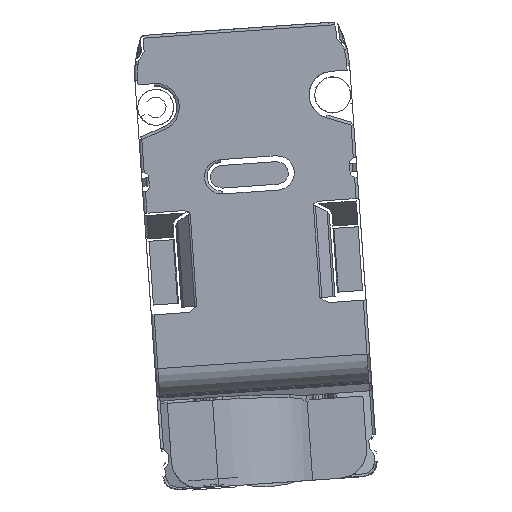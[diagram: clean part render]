
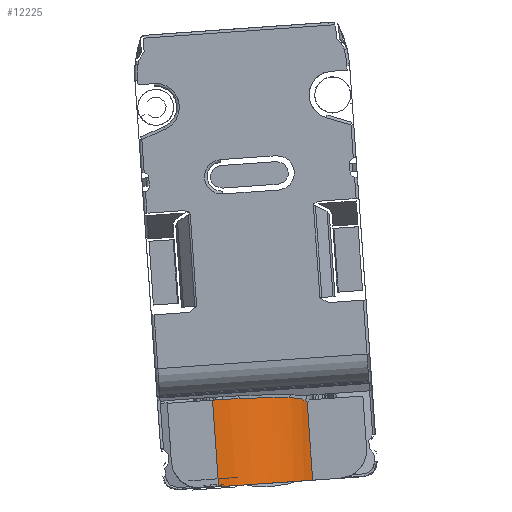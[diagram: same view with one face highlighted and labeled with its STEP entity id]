
A CAD part, front view. The second image highlights one B-rep face of the part: STEP entity #12225.
In plain terms, the highlighted cylindrical face has radius 7.5 mm (diameter 15 mm), a partial arc.
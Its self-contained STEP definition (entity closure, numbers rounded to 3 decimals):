
#11054=DIRECTION('',(-0.07,0.,0.998));
#11055=VECTOR('',#11054,5.56);
#11056=CARTESIAN_POINT('',(-40.701,-1070.597,
14.888));
#11057=LINE('',#11056,#11055);
#11061=DIRECTION('',(0.07,0.,-0.998));
#11062=VECTOR('',#11061,6.214);
#11063=CARTESIAN_POINT('',(-47.863,-1074.818,
20.616));
#11064=LINE('',#11063,#11062);
#11068=CARTESIAN_POINT('',(-47.863,-1074.818,
20.616));
#11069=CARTESIAN_POINT('',(-47.616,-1074.818,
20.634));
#11070=CARTESIAN_POINT('',(-47.119,-1074.794,
20.666));
#11071=CARTESIAN_POINT('',(-46.371,-1074.681,
20.708));
#11072=CARTESIAN_POINT('',(-45.632,-1074.491,
20.743));
#11073=CARTESIAN_POINT('',(-44.911,-1074.225,
20.769));
#11074=CARTESIAN_POINT('',(-44.218,-1073.886,
20.787));
#11075=CARTESIAN_POINT('',(-43.563,-1073.478,
20.796));
#11076=CARTESIAN_POINT('',(-42.955,-1073.006,
20.796));
#11077=CARTESIAN_POINT('',(-42.4,-1072.477,
20.788));
#11078=CARTESIAN_POINT('',(-41.906,-1071.9,
20.77));
#11079=CARTESIAN_POINT('',(-41.619,-1071.489,
20.753));
#11080=CARTESIAN_POINT('',(-41.487,-1071.278,
20.743));
#11085=CARTESIAN_POINT('',(-41.487,-1071.278,
20.743));
#11086=CARTESIAN_POINT('',(-41.453,-1071.225,
20.741));
#11087=CARTESIAN_POINT('',(-41.39,-1071.121,
20.728));
#11088=CARTESIAN_POINT('',(-41.301,-1070.971,
20.685));
#11089=CARTESIAN_POINT('',(-41.22,-1070.831,
20.621));
#11090=CARTESIAN_POINT('',(-41.149,-1070.704,
20.536));
#11091=CARTESIAN_POINT('',(-41.108,-1070.631,
20.471));
#11092=CARTESIAN_POINT('',(-41.088,-1070.597,
20.435));
#11553=CARTESIAN_POINT('',(-47.43,-1067.318,
14.418));
#11554=DIRECTION('',(0.07,0.,-0.998));
#11555=DIRECTION('',(0.897,-0.437,0.063));
#11556=AXIS2_PLACEMENT_3D('',#11553,#11554,#11555);
#12011=CARTESIAN_POINT('',(-40.701,-1070.597,
14.888));
#12012=CARTESIAN_POINT('',(-41.088,-1070.597,
20.435));
#12013=VERTEX_POINT('',#12011);
#12014=VERTEX_POINT('',#12012);
#12015=VERTEX_POINT('',#11085);
#12016=VERTEX_POINT('',#11068);
#12017=CARTESIAN_POINT('',(-47.43,-1074.818,
14.418));
#12018=VERTEX_POINT('',#12017);
#12208=CARTESIAN_POINT('',(-52.434,-1067.318,
85.982));
#12209=DIRECTION('',(0.07,0.,-0.998));
#12210=DIRECTION('',(0.,-1.,0.));
#12211=AXIS2_PLACEMENT_3D('',#12208,#12209,#12210);
#12212=CYLINDRICAL_SURFACE('',#12211,7.5);
#12214=ORIENTED_EDGE('',*,*,#12213,.F.);
#12216=ORIENTED_EDGE('',*,*,#12215,.T.);
#12218=ORIENTED_EDGE('',*,*,#12217,.F.);
#12220=ORIENTED_EDGE('',*,*,#12219,.T.);
#12222=ORIENTED_EDGE('',*,*,#12221,.T.);
#12223=EDGE_LOOP('',(#12214,#12216,#12218,#12220,#12222));
#12224=FACE_OUTER_BOUND('',#12223,.F.);
#11081=B_SPLINE_CURVE_WITH_KNOTS('',3,(#11068,#11069,#11070,#11071,#11072,
#11073,#11074,#11075,#11076,#11077,#11078,#11079,#11080),.UNSPECIFIED.,.F.,.F.,(
4,1,1,1,1,1,1,1,1,1,4),(0.,0.1,0.2,0.3,0.4,0.5,0.6,0.7,0.8,
0.9,1.),.UNSPECIFIED.);
#11093=B_SPLINE_CURVE_WITH_KNOTS('',3,(#11085,#11086,#11087,#11088,#11089,
#11090,#11091,#11092),.UNSPECIFIED.,.F.,.F.,(4,1,1,1,1,4),(0.,0.2,0.4,
0.6,0.8,1.),.UNSPECIFIED.);
#11557=CIRCLE('',#11556,7.5);
#12213=EDGE_CURVE('',#12013,#12014,#11057,.T.);
#12215=EDGE_CURVE('',#12013,#12018,#11557,.T.);
#12217=EDGE_CURVE('',#12016,#12018,#11064,.T.);
#12219=EDGE_CURVE('',#12016,#12015,#11081,.T.);
#12221=EDGE_CURVE('',#12015,#12014,#11093,.T.);
#12225=ADVANCED_FACE('',(#12224),#12212,.T.);
